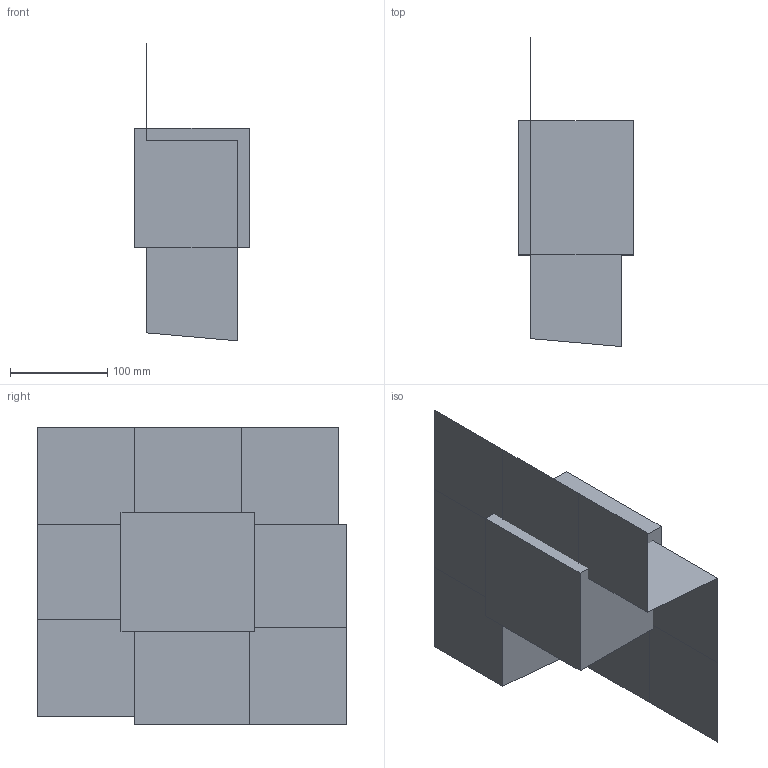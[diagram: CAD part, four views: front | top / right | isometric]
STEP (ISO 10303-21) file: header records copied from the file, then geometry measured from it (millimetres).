
FILE_DESCRIPTION(('CATIA V5 STEP Exchange'),'2;1');
FILE_NAME('C:\_Andres\UNIVERSIDAD\IQS\ASIGNATURAS\DAO\EXF\EXF-15161c\1original\Vila_Vaquer_Ej02-moldes_v28.stp','2016-03-04T15:45:46+00:00',('none'),('none'),'CATIA Version 5 Release 20 SP 1 (IN-10)','CATIA V5 STEP AP203','none');
FILE_SCHEMA(('CONFIG_CONTROL_DESIGN'));
Length unit declared in the file: millimetre
Products named in the file (1): Vila_Vaquer_Ej02-moldes_v28
Bounding box: 118 x 318.66 x 306.66 mm (x, y, z)
Volume: 4233249.7 mm3; surface area: 422222.4 mm2
Topology: 3 solids, 7 shells, 45 faces, 118 edges, 83 vertices
Faces by surface type: plane 41, cylinder 4
Entity records: 1101 total; most frequent: ORIENTED_EDGE 198, CARTESIAN_POINT 179, DIRECTION 147, EDGE_CURVE 83, VECTOR 73, LINE 73, VERTEX_POINT 56, EDGE_LOOP 49
